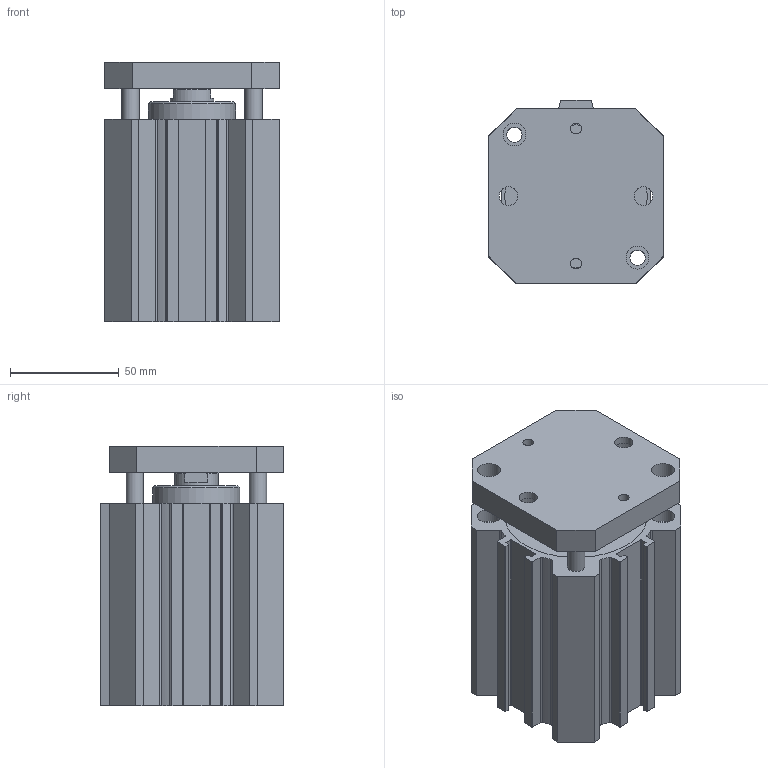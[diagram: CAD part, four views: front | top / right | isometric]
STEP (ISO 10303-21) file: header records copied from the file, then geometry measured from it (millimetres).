
FILE_DESCRIPTION(/* description */ ('TUBO PROFILATO COMPATTI Ø40'),/* implementation_level */ '2;1');
FILE_NAME(/* name */ 'I:\Area Tecnica\Disegni\VARIE-3D\Componenti\1500\Ø63\15##_63_####_#\1501_63_0055_AR.stp',/* time_stamp */ '2016-08-24T13:52:43+02:00',/* author */ ('Maniean1'),/* organization */ ('Pneumax S.p.A.'),/* preprocessor_version */ 'ST-DEVELOPER v15.2',/* originating_system */ 'Autodesk Inventor 2014',/* authorisation */ '');
FILE_SCHEMA (('AUTOMOTIVE_DESIGN { 1 0 10303 214 3 1 1 }'));
Length unit declared in the file: millimetre
Products named in the file (3): C_1501_63_0055_AR; S_1501_63_0055_AR; 1501_63_0055_AR
Bounding box: 80 x 84 x 119 mm (x, y, z)
Volume: 405884.2 mm3; surface area: 116804.5 mm2
Topology: 2 solids, 2 shells, 185 faces, 481 edges, 322 vertices
Faces by surface type: plane 94, cylinder 86, cone 5
Full cylindrical faces by diameter (mm): 4.917 x2, 7 x4, 8 x4, 8.5 x2, 8.566 x2, 10.5 x8, 13.5 x2, 20 x2, 40 x2, 63 x2, 65.5 x2
Entity records: 5739 total; most frequent: DIRECTION 994, CARTESIAN_POINT 950, ORIENTED_EDGE 876, EDGE_CURVE 438, AXIS2_PLACEMENT_3D 370, VERTEX_POINT 314, EDGE_LOOP 262, LINE 254
